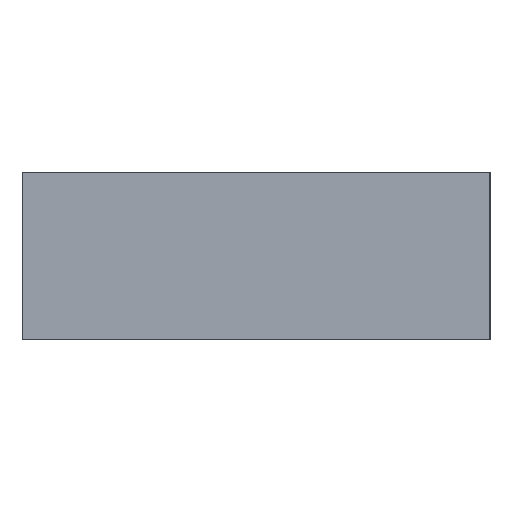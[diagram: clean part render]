
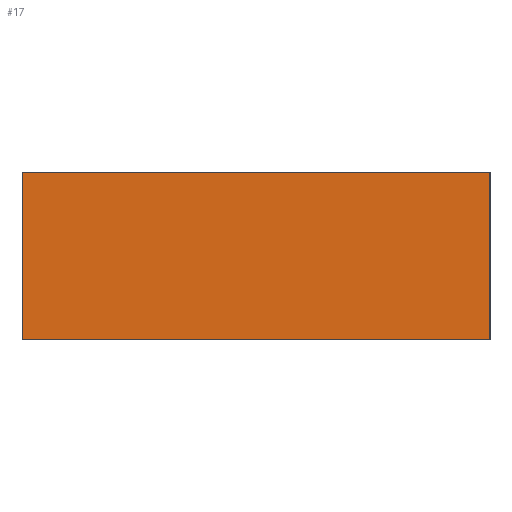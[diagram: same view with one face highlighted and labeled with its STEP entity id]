
A CAD part, left-side view. The second image highlights one B-rep face of the part: STEP entity #17.
In plain terms, the highlighted planar face has unit normal (-1, 0, 0).
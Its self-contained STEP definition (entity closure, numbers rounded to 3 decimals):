
#17 = ADVANCED_FACE('',(#18),#32,.F.);
#18 = FACE_BOUND('',#19,.F.);
#19 = EDGE_LOOP('',(#20,#55,#83,#111));
#20 = ORIENTED_EDGE('',*,*,#21,.F.);
#21 = EDGE_CURVE('',#22,#24,#26,.T.);
#22 = VERTEX_POINT('',#23);
#23 = CARTESIAN_POINT('',(0.,0.,0.));
#24 = VERTEX_POINT('',#25);
#25 = CARTESIAN_POINT('',(0.,0.,10.));
#26 = SURFACE_CURVE('',#27,(#31,#43),.PCURVE_S1.);
#27 = LINE('',#28,#29);
#28 = CARTESIAN_POINT('',(0.,0.,0.));
#29 = VECTOR('',#30,1.);
#30 = DIRECTION('',(0.,0.,1.));
#31 = PCURVE('',#32,#37);
#32 = PLANE('',#33);
#33 = AXIS2_PLACEMENT_3D('',#34,#35,#36);
#34 = CARTESIAN_POINT('',(0.,0.,0.));
#35 = DIRECTION('',(1.,0.,0.));
#36 = DIRECTION('',(0.,0.,1.));
#37 = DEFINITIONAL_REPRESENTATION('',(#38),#42);
#38 = LINE('',#39,#40);
#39 = CARTESIAN_POINT('',(0.,0.));
#40 = VECTOR('',#41,1.);
#41 = DIRECTION('',(1.,0.));
#42 = ( GEOMETRIC_REPRESENTATION_CONTEXT(2)
PARAMETRIC_REPRESENTATION_CONTEXT() REPRESENTATION_CONTEXT('2D SPACE',''
  ) );
#43 = PCURVE('',#44,#49);
#44 = PLANE('',#45);
#45 = AXIS2_PLACEMENT_3D('',#46,#47,#48);
#46 = CARTESIAN_POINT('',(0.,0.,0.));
#47 = DIRECTION('',(0.,1.,0.));
#48 = DIRECTION('',(0.,0.,1.));
#49 = DEFINITIONAL_REPRESENTATION('',(#50),#54);
#50 = LINE('',#51,#52);
#51 = CARTESIAN_POINT('',(0.,0.));
#52 = VECTOR('',#53,1.);
#53 = DIRECTION('',(1.,0.));
#54 = ( GEOMETRIC_REPRESENTATION_CONTEXT(2)
PARAMETRIC_REPRESENTATION_CONTEXT() REPRESENTATION_CONTEXT('2D SPACE',''
  ) );
#55 = ORIENTED_EDGE('',*,*,#56,.T.);
#56 = EDGE_CURVE('',#22,#57,#59,.T.);
#57 = VERTEX_POINT('',#58);
#58 = CARTESIAN_POINT('',(0.,28.,0.));
#59 = SURFACE_CURVE('',#60,(#64,#71),.PCURVE_S1.);
#60 = LINE('',#61,#62);
#61 = CARTESIAN_POINT('',(0.,0.,0.));
#62 = VECTOR('',#63,1.);
#63 = DIRECTION('',(0.,1.,0.));
#64 = PCURVE('',#32,#65);
#65 = DEFINITIONAL_REPRESENTATION('',(#66),#70);
#66 = LINE('',#67,#68);
#67 = CARTESIAN_POINT('',(0.,0.));
#68 = VECTOR('',#69,1.);
#69 = DIRECTION('',(0.,-1.));
#70 = ( GEOMETRIC_REPRESENTATION_CONTEXT(2)
PARAMETRIC_REPRESENTATION_CONTEXT() REPRESENTATION_CONTEXT('2D SPACE',''
  ) );
#71 = PCURVE('',#72,#77);
#72 = PLANE('',#73);
#73 = AXIS2_PLACEMENT_3D('',#74,#75,#76);
#74 = CARTESIAN_POINT('',(0.,0.,0.));
#75 = DIRECTION('',(0.,0.,1.));
#76 = DIRECTION('',(1.,0.,0.));
#77 = DEFINITIONAL_REPRESENTATION('',(#78),#82);
#78 = LINE('',#79,#80);
#79 = CARTESIAN_POINT('',(0.,0.));
#80 = VECTOR('',#81,1.);
#81 = DIRECTION('',(0.,1.));
#82 = ( GEOMETRIC_REPRESENTATION_CONTEXT(2)
PARAMETRIC_REPRESENTATION_CONTEXT() REPRESENTATION_CONTEXT('2D SPACE',''
  ) );
#83 = ORIENTED_EDGE('',*,*,#84,.T.);
#84 = EDGE_CURVE('',#57,#85,#87,.T.);
#85 = VERTEX_POINT('',#86);
#86 = CARTESIAN_POINT('',(0.,28.,10.));
#87 = SURFACE_CURVE('',#88,(#92,#99),.PCURVE_S1.);
#88 = LINE('',#89,#90);
#89 = CARTESIAN_POINT('',(0.,28.,0.));
#90 = VECTOR('',#91,1.);
#91 = DIRECTION('',(0.,0.,1.));
#92 = PCURVE('',#32,#93);
#93 = DEFINITIONAL_REPRESENTATION('',(#94),#98);
#94 = LINE('',#95,#96);
#95 = CARTESIAN_POINT('',(0.,-28.));
#96 = VECTOR('',#97,1.);
#97 = DIRECTION('',(1.,0.));
#98 = ( GEOMETRIC_REPRESENTATION_CONTEXT(2)
PARAMETRIC_REPRESENTATION_CONTEXT() REPRESENTATION_CONTEXT('2D SPACE',''
  ) );
#99 = PCURVE('',#100,#105);
#100 = PLANE('',#101);
#101 = AXIS2_PLACEMENT_3D('',#102,#103,#104);
#102 = CARTESIAN_POINT('',(0.,28.,0.));
#103 = DIRECTION('',(0.,1.,0.));
#104 = DIRECTION('',(0.,0.,1.));
#105 = DEFINITIONAL_REPRESENTATION('',(#106),#110);
#106 = LINE('',#107,#108);
#107 = CARTESIAN_POINT('',(0.,0.));
#108 = VECTOR('',#109,1.);
#109 = DIRECTION('',(1.,0.));
#110 = ( GEOMETRIC_REPRESENTATION_CONTEXT(2)
PARAMETRIC_REPRESENTATION_CONTEXT() REPRESENTATION_CONTEXT('2D SPACE',''
  ) );
#111 = ORIENTED_EDGE('',*,*,#112,.F.);
#112 = EDGE_CURVE('',#24,#85,#113,.T.);
#113 = SURFACE_CURVE('',#114,(#118,#125),.PCURVE_S1.);
#114 = LINE('',#115,#116);
#115 = CARTESIAN_POINT('',(0.,0.,10.));
#116 = VECTOR('',#117,1.);
#117 = DIRECTION('',(0.,1.,0.));
#118 = PCURVE('',#32,#119);
#119 = DEFINITIONAL_REPRESENTATION('',(#120),#124);
#120 = LINE('',#121,#122);
#121 = CARTESIAN_POINT('',(10.,0.));
#122 = VECTOR('',#123,1.);
#123 = DIRECTION('',(0.,-1.));
#124 = ( GEOMETRIC_REPRESENTATION_CONTEXT(2)
PARAMETRIC_REPRESENTATION_CONTEXT() REPRESENTATION_CONTEXT('2D SPACE',''
  ) );
#125 = PCURVE('',#126,#131);
#126 = PLANE('',#127);
#127 = AXIS2_PLACEMENT_3D('',#128,#129,#130);
#128 = CARTESIAN_POINT('',(0.,0.,10.));
#129 = DIRECTION('',(0.,0.,1.));
#130 = DIRECTION('',(1.,0.,0.));
#131 = DEFINITIONAL_REPRESENTATION('',(#132),#136);
#132 = LINE('',#133,#134);
#133 = CARTESIAN_POINT('',(0.,0.));
#134 = VECTOR('',#135,1.);
#135 = DIRECTION('',(0.,1.));
#136 = ( GEOMETRIC_REPRESENTATION_CONTEXT(2)
PARAMETRIC_REPRESENTATION_CONTEXT() REPRESENTATION_CONTEXT('2D SPACE',''
  ) );
